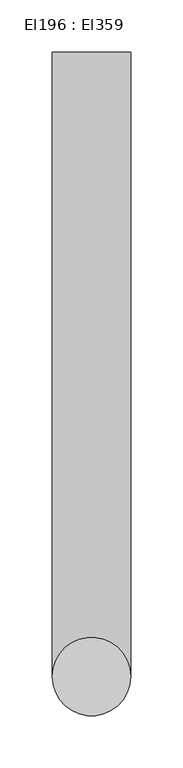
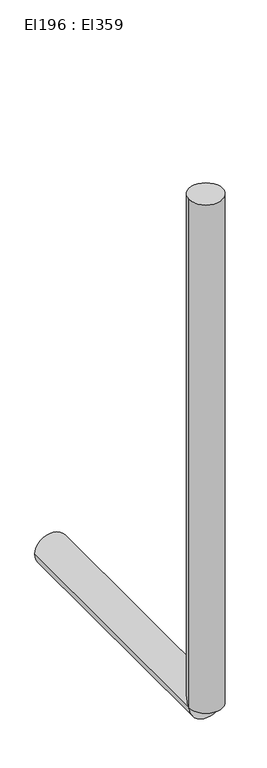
"""IFC4 building model written with IfcOpenShell, lengths in millimetres: cable carrier segment geometry, El196 : El359."""

from ifc_helpers import new_model, si_unit, point, frame, frame_2d, origin, place, context, project, spatial, circle_curve, trimmed, segment, composite_curve, outline, extrude, source, transform, mapped, element, save


def el196_el359_8e960314(model_context):
    return source(origin(), model_context, "Body", "SweptSolid", [
        extrude(outline(composite_curve([segment(trimmed(circle_curve(frame_2d((22017.1746511, -3531.7138255)), 37.5), [point((21979.6746511, -3531.7138255))], [point((22054.6746511, -3531.7138255))], False, "CARTESIAN"), True, "CONTINUOUS"), segment(trimmed(circle_curve(frame_2d((22017.1746511, -3531.7138255)), 37.5), [point((22054.6746511, -3531.7138255))], [point((21979.6746511, -3531.7138255))], False, "CARTESIAN"), True, "CONTINUOUS")], self_intersect=False)), frame((0.0, 0.0, 1500.0), z_axis=(0.0, 0.0, 1.0), x_axis=(1.0, 0.0, 0.0)), (0.0, 0.0, 1.0), 1200.0),
        extrude(outline(composite_curve([segment(trimmed(circle_curve(frame_2d((1500.0, 22017.1746511)), 37.5), [point((1500.0, 21979.6746511))], [point((1500.0, 22054.6746511))], False, "CARTESIAN"), True, "CONTINUOUS"), segment(trimmed(circle_curve(frame_2d((1500.0, 22017.1746511)), 37.5), [point((1500.0, 22054.6746511))], [point((1500.0, 21979.6746511))], False, "CARTESIAN"), True, "CONTINUOUS")], self_intersect=False)), frame((0.0, -3531.7148255, 0.0), z_axis=(0.0, 1.0, 0.0), x_axis=(0.0, 0.0, 1.0)), (0.0, 0.0, 1.0), 597.393),
    ])


if __name__ == "__main__":
    model = new_model("IFC4")
    model_context = context("Model", 3, world=origin())
    ifc_project = project(units=[si_unit("LENGTHUNIT", "METRE", prefix="MILLI")], contexts=[model_context])
    site = spatial("IfcSite", under=ifc_project)
    building = spatial("IfcBuilding", under=site)
    placement = place(None, origin())
    el196_el359_shape = el196_el359_8e960314(model_context)
    element("IfcCableCarrierSegment", 1, ObjectType="El196 : El359", at=placement, inside=building, context=model_context, shape_type="MappedRepresentation", body=[
        mapped(el196_el359_shape, transform((0.0, 0.0, 0.0), x_axis=(1.0, 0.0, 0.0), y_axis=(0.0, 1.0, 0.0), z_axis=(0.0, 0.0, 1.0))),
    ])
    save(model, "model.ifc")
